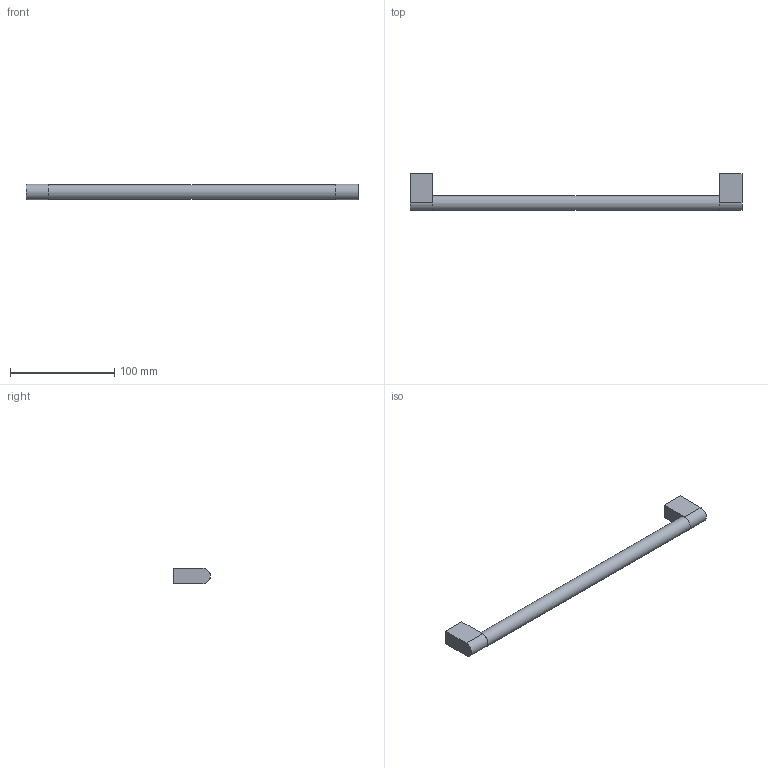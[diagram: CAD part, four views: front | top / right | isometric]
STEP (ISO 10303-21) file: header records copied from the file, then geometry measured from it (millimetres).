
FILE_DESCRIPTION( ( 'STEP AP214' ), '1' );
FILE_NAME( 'C:/Shahbaz/Shahbaz D&D/Task/Working-ON/Varna/QC/9332352.stp', '2023-08-29T06:58:21', ( '' ), ( '' ), ' ', 'PARTsolutions', ' ' );
FILE_SCHEMA( ( 'AUTOMOTIVE_DESIGN { 1 0 10303 214 1 1 1 1 }' ) );
Length unit declared in the file: millimetre
Products named in the file (1): _9332352
Bounding box: 318 x 35.36 x 14.64 mm (x, y, z)
Volume: 64252.6 mm3; surface area: 18593.1 mm2
Topology: 1 solids, 1 shells, 17 faces, 33 edges, 22 vertices
Faces by surface type: plane 12, cylinder 5
Full cylindrical faces by diameter (mm): 6.2 x2, 14.2 x1
Entity records: 574 total; most frequent: DIRECTION 76, CARTESIAN_POINT 70, ORIENTED_EDGE 60, EDGE_CURVE 30, AXIS2_PLACEMENT_3D 28, EDGE_LOOP 24, VERTEX_POINT 22, FACE_OUTER_BOUND 20
